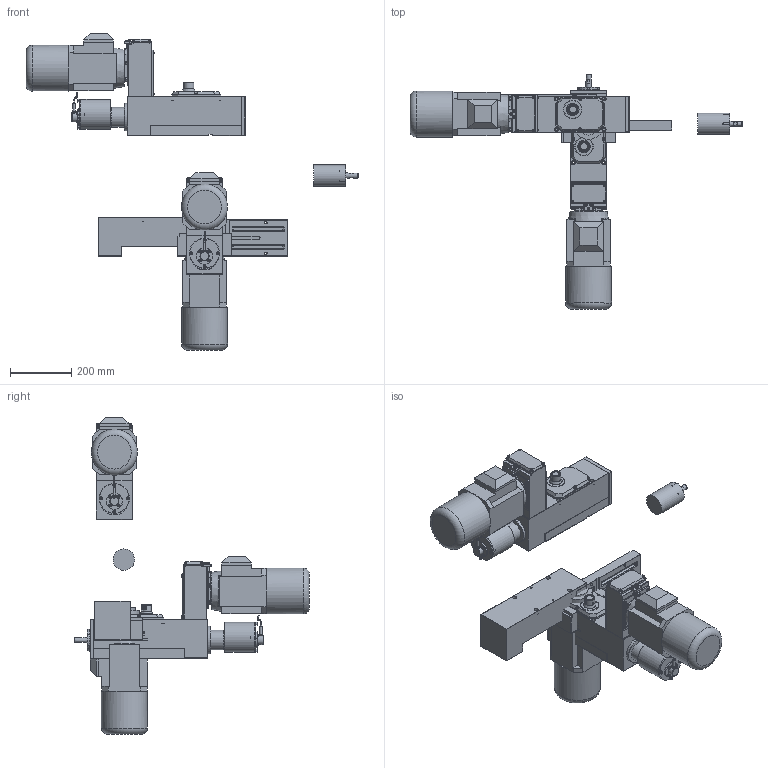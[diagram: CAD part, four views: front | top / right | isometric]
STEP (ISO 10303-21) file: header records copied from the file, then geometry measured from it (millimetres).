
FILE_DESCRIPTION( ( 'STEP AP203' ), '1' );
FILE_NAME( 'C:/Documents and Settings/Saverio/Desktop/disegni ironcad/unità serie 1/M 112/M 112_A01_P.stp', '2013-12-12T18:34:18', ( ' ' ), ( ' ' ), 'XStep 1.0', ' ', ' ' );
FILE_SCHEMA( ( 'CONFIG_CONTROL_DESIGN' ) );
Length unit declared in the file: metre
Products named in the file (53): Assem1; Assem2; Assem3; 1; 2; 3; 4; 5; 6; 7; 8; 9; 10; 11; 12; 13; 14; 15; 16; 17; 18; 19; 20; 21; 22; 23; 24; 25; 26; 27; 28; 29; 30; 31; 32; 33; 34; 35; 36; 37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
Bounding box: 1083.39 x 765 x 1032.13 mm (x, y, z)
Volume: 37625900.7 mm3; surface area: 3031922.8 mm2
Topology: 150 solids, 150 shells, 3093 faces, 6918 edges, 4296 vertices
Faces by surface type: plane 1899, cylinder 651, cone 435, sphere 60, bspline 30, torus 18
Full cylindrical faces by diameter (mm): 4.134 x3, 4.5 x12, 5 x33, 5.5 x15, 6 x21, 6.5 x6, 6.9 x12, 7 x3, 8 x3, 8.385 x15, 8.5 x24, 9.87 x24, 13.5 x12, 18 x9, 20 x3, 23 x3, 30 x9, 32 x6, 41 x3, 47 x3, 52 x6, 52.5 x3, 54 x9, 54.4 x3, 60 x3, 64 x3, 70 x3, 71 x3, 80 x6, 90 x3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
Entity records: 30994 total; most frequent: CARTESIAN_POINT 6673, DIRECTION 4579, ORIENTED_EDGE 4118, EDGE_CURVE 2059, AXIS2_PLACEMENT_3D 1656, VERTEX_POINT 1411, EDGE_LOOP 1366, LINE 1267
